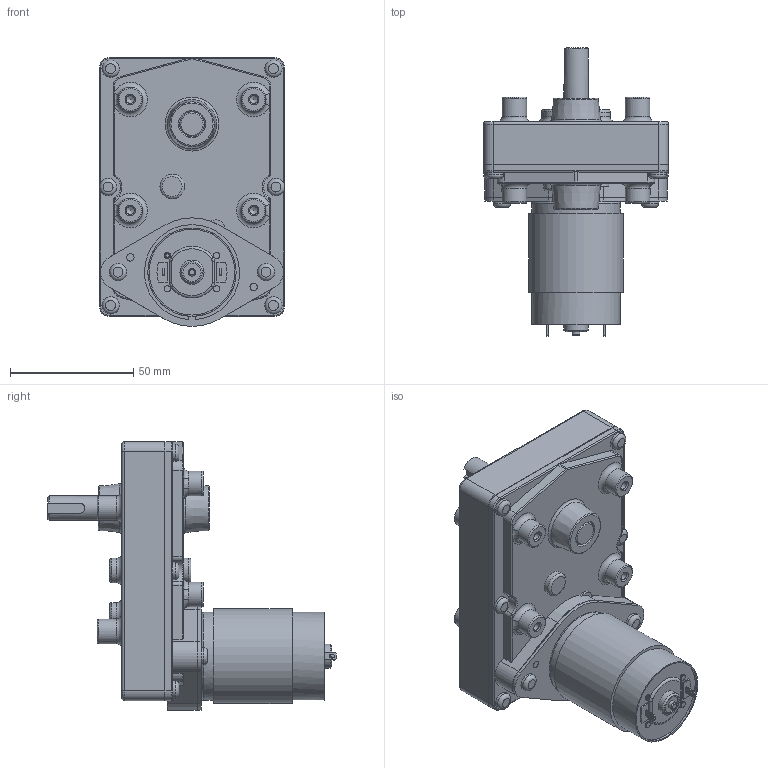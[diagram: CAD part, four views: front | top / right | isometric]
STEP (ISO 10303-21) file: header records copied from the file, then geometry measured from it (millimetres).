
FILE_DESCRIPTION(/* description */ (''),/* implementation_level */ '2;1');
FILE_NAME(/* name */ 'TP-3850#-LGL-J00-24.stp',/* time_stamp */ '2023-11-01T11:59:28+09:00',/* author */ ('user'),/* organization */ (''),/* preprocessor_version */ 'ST-DEVELOPER v19.2',/* originating_system */ 'Autodesk Inventor 2024',/* authorisation */ '');
FILE_SCHEMA (('AUTOMOTIVE_DESIGN { 1 0 10303 214 3 1 1 }'));
Length unit declared in the file: millimetre
Products named in the file (3): TP-3850#-LGL-J00-24; lgl; TP-3850K(RS-645)
Assembly tree (2 placements, depth 2):
  TP-3850#-LGL-J00-24
    lgl
    TP-3850K(RS-645)
Bounding box: 75 x 116.9 x 109 mm (x, y, z)
Volume: 274553.8 mm3; surface area: 39875.8 mm2
Topology: 2 solids, 2 shells, 329 faces, 779 edges, 497 vertices
Faces by surface type: plane 125, cylinder 112, torus 63, cone 25, bspline 4
Full cylindrical faces by diameter (mm): 1.5 x1, 2.459 x2, 2.5 x5, 3 x2, 3.17 x2, 3.242 x8, 7 x8, 7.4 x1, 9 x2, 9.8 x1, 10 x11, 11 x1, 13 x1, 15 x1, 34.8 x1, 35.8 x1
Entity records: 9866 total; most frequent: DIRECTION 1818, CARTESIAN_POINT 1780, ORIENTED_EDGE 1538, EDGE_CURVE 769, AXIS2_PLACEMENT_3D 737, VERTEX_POINT 497, CIRCLE 399, EDGE_LOOP 386
